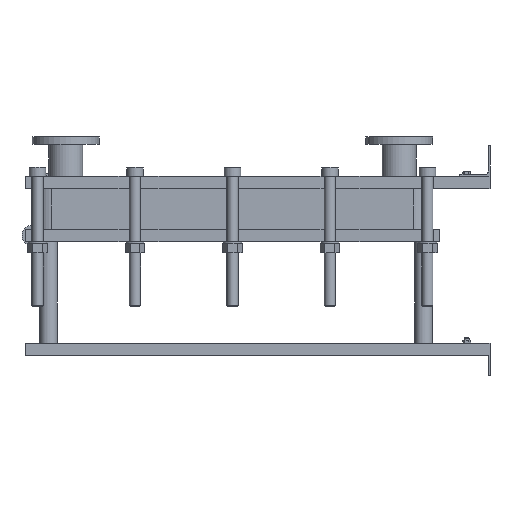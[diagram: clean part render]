
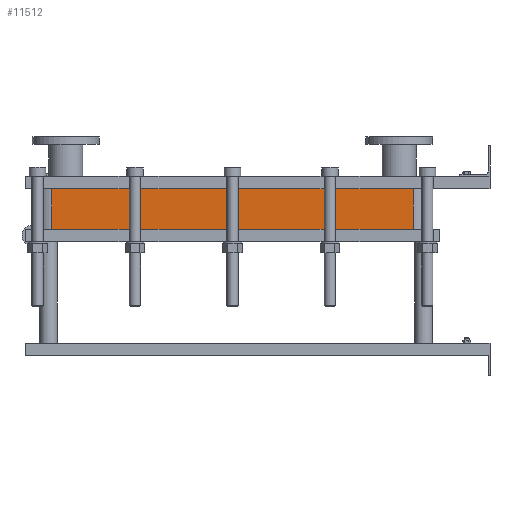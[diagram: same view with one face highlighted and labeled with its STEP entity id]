
A CAD part, left-side view. The second image highlights one B-rep face of the part: STEP entity #11512.
In plain terms, the highlighted planar face has unit normal (-1, 0, 0).
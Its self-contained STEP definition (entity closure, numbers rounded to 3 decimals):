
#1129=LINE('',#23232,#2102);
#1130=LINE('',#23236,#2103);
#1131=LINE('',#23238,#2104);
#1132=LINE('',#23239,#2105);
#2102=VECTOR('',#15887,10.);
#2103=VECTOR('',#15892,10.);
#2104=VECTOR('',#15893,10.);
#2105=VECTOR('',#15894,10.);
#3267=FACE_OUTER_BOUND('',#4093,.T.);
#4093=EDGE_LOOP('',(#10103,#10104,#10105,#10106));
#5642=VERTEX_POINT('',#23229);
#5643=VERTEX_POINT('',#23231);
#5644=VERTEX_POINT('',#23235);
#5645=VERTEX_POINT('',#23237);
#7159=EDGE_CURVE('',#5643,#5642,#1129,.T.);
#7161=EDGE_CURVE('',#5642,#5644,#1130,.T.);
#7162=EDGE_CURVE('',#5645,#5644,#1131,.T.);
#7163=EDGE_CURVE('',#5645,#5643,#1132,.T.);
#10103=ORIENTED_EDGE('',*,*,#7161,.T.);
#10104=ORIENTED_EDGE('',*,*,#7162,.F.);
#10105=ORIENTED_EDGE('',*,*,#7163,.T.);
#10106=ORIENTED_EDGE('',*,*,#7159,.T.);
#10857=PLANE('',#12751);
#11512=ADVANCED_FACE('',(#3267),#10857,.T.);
#12751=AXIS2_PLACEMENT_3D('',#23234,#15890,#15891);
#15887=DIRECTION('',(0.,0.,-1.));
#15890=DIRECTION('center_axis',(-1.,0.,0.));
#15891=DIRECTION('ref_axis',(0.,1.,0.));
#15892=DIRECTION('',(0.,-1.,0.));
#15893=DIRECTION('',(0.,0.,-1.));
#15894=DIRECTION('',(0.,1.,0.));
#23229=CARTESIAN_POINT('',(-200.,1414.,-131.1));
#23231=CARTESIAN_POINT('',(-200.,1414.,0.));
#23232=CARTESIAN_POINT('',(-200.,1414.,0.));
#23234=CARTESIAN_POINT('Origin',(-200.,248.,0.));
#23235=CARTESIAN_POINT('',(-200.,248.,-131.1));
#23236=CARTESIAN_POINT('',(-200.,539.5,-131.1));
#23237=CARTESIAN_POINT('',(-200.,248.,0.));
#23238=CARTESIAN_POINT('',(-200.,248.,0.));
#23239=CARTESIAN_POINT('',(-200.,248.,0.));
